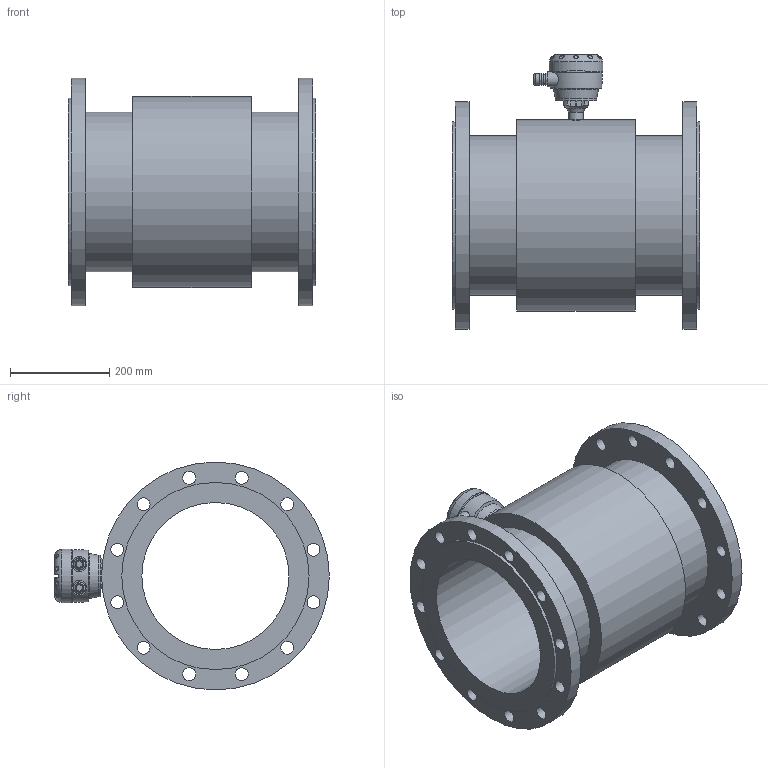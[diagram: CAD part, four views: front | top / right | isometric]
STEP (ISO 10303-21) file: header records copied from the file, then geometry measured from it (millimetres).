
FILE_DESCRIPTION (( 'STEP AP203' ), '1' );
FILE_NAME ('KROHNE_OPTIFLUX_2-4000W_DIN2633_DN300_PN16.STEP', '2011-04-26T11:24:34', ( '' ), ( '' ), 'SwSTEP 2.0', 'SolidWorks 2010', '' );
FILE_SCHEMA (( 'CONFIG_CONTROL_DESIGN' ));
Length unit declared in the file: millimetre
Products named in the file (1): KROHNE_OPTIFLUX_2-4000W_DIN2633_DN300_PN16
Bounding box: 500 x 554.49 x 460 mm (x, y, z)
Volume: 20179491.5 mm3; surface area: 1614048.3 mm2
Topology: 14 solids, 14 shells, 351 faces, 869 edges, 568 vertices
Faces by surface type: plane 158, cylinder 101, bspline 53, torus 18, sphere 13, cone 8
Full cylindrical faces by diameter (mm): 4 x4, 6.6 x8, 13 x2, 20 x2, 23.5 x4, 26 x24, 29 x1, 30 x2, 84 x2, 109 x1, 297 x1, 322 x2, 378 x2, 386 x1, 460 x2
Entity records: 14264 total; most frequent: CARTESIAN_POINT 6539, ORIENTED_EDGE 1494, DIRECTION 1461, EDGE_CURVE 747, AXIS2_PLACEMENT_3D 549, EDGE_LOOP 534, VERTEX_POINT 531, FACE_OUTER_BOUND 426
